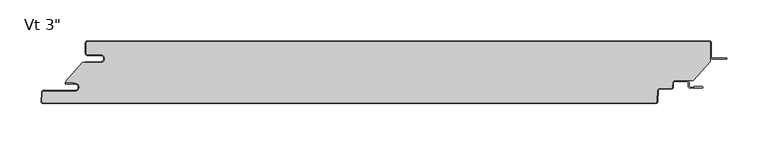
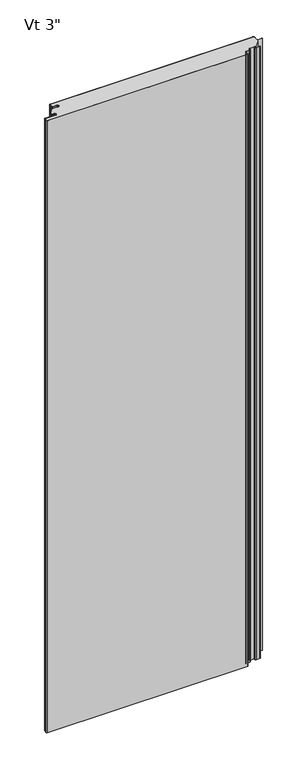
"""IFC4 building model written with IfcOpenShell, lengths in millimetres: plate geometry."""

from ifc_helpers import new_model, si_unit, point, frame, frame_2d, origin, origin_with_axes, place, context, project, spatial, polyline, circle_curve, ellipse_curve, trimmed, segment, composite_curve, outline, extrude, source, transform, mapped, element, save
from ifc_brep_helpers import plane_surface, cylinder_surface, revolved_surface, extruded_surface, advanced_brep


def plate_f979c6ee(model_context):
    return source(origin(), model_context, "Body", "SolidModel", [
        extrude(outline(composite_curve([segment(polyline([(-361.94375, -16.4625), (-377.81875, -16.4625)]), True, "CONTINUOUS"), segment(trimmed(circle_curve(frame_2d((-377.81875, -15.08125)), 1.38125), [point((-377.81875, -16.4625))], [point((-379.2, -15.08125))], False, "CARTESIAN"), True, "CONTINUOUS"), segment(polyline([(-379.2, -15.08125), (-379.2, -2.38125)]), True, "CONTINUOUS"), segment(trimmed(circle_curve(frame_2d((-377.81875, -2.38125)), 1.38125), [point((-379.2, -2.38125))], [point((-377.81875, -1.0))], False, "CARTESIAN"), True, "CONTINUOUS"), segment(polyline([(-377.81875, -1.0), (377.83125, -1.0)]), True, "CONTINUOUS"), segment(trimmed(circle_curve(frame_2d((377.83125, -2.38125)), 1.38125), [point((377.83125, -1.0))], [point((379.2125, -2.38125))], False, "CARTESIAN"), True, "CONTINUOUS"), segment(polyline([(379.2125, -2.38125), (379.2125, -24.9057308), (358.3955434, -48.2125), (335.9540783, -48.2125)]), True, "CONTINUOUS"), segment(trimmed(circle_curve(frame_2d((335.9540783, -50.8)), 2.5875), [point((335.9540783, -48.2125))], [point((333.3701244, -50.6645807))], True, "CARTESIAN"), True, "CONTINUOUS"), segment(polyline([(333.3701244, -50.6645807), (333.0680481, -56.428539)]), True, "CONTINUOUS"), segment(trimmed(circle_curve(frame_2d((331.6886911, -56.35625)), 1.38125), [point((333.0680481, -56.428539))], [point((331.6886911, -57.7375))], False, "CARTESIAN"), True, "CONTINUOUS"), segment(polyline([(331.6886911, -57.7375), (317.5323847, -57.7375)]), True, "CONTINUOUS"), segment(trimmed(circle_curve(frame_2d((317.5323847, -60.325)), 2.5875), [point((317.5323847, -57.7375))], [point((314.9484307, -60.1895807))], True, "CARTESIAN"), True, "CONTINUOUS"), segment(polyline([(314.9484307, -60.1895807), (314.2303677, -73.891039)]), True, "CONTINUOUS"), segment(trimmed(circle_curve(frame_2d((312.8510107, -73.81875)), 1.38125), [point((314.2303677, -73.891039))], [point((312.8510107, -75.2))], False, "CARTESIAN"), True, "CONTINUOUS"), segment(polyline([(312.8510107, -75.2), (-431.6799535, -75.2)]), True, "CONTINUOUS"), segment(trimmed(circle_curve(frame_2d((-431.6799535, -73.81875)), 1.38125), [point((-431.6799535, -75.2))], [point((-433.0593106, -73.746461))], False, "CARTESIAN"), True, "CONTINUOUS"), segment(polyline([(-433.0593106, -73.746461), (-432.4769291, -62.633961)]), True, "CONTINUOUS"), segment(trimmed(circle_curve(frame_2d((-431.0975721, -62.70625)), 1.38125), [point((-432.4769291, -62.633961))], [point((-431.0975721, -61.325))], False, "CARTESIAN"), True, "CONTINUOUS"), segment(polyline([(-431.0975721, -61.325), (-392.9142674, -61.325)]), True, "CONTINUOUS"), segment(trimmed(circle_curve(frame_2d((-392.9142674, -56.35625)), 4.96875), [point((-392.9142674, -61.325))], [point((-392.9142674, -51.3875))], True, "CARTESIAN"), True, "CONTINUOUS"), segment(polyline([(-392.9142674, -51.3875), (-394.5017674, -51.59375), (-394.5017674, -50.8), (-404.0125, -50.8), (-404.0125, -49.2157227), (-384.1260922, -26.4), (-361.94375, -26.4)]), True, "CONTINUOUS"), segment(trimmed(circle_curve(frame_2d((-361.94375, -21.43125)), 4.96875), [point((-361.94375, -26.4))], [point((-361.94375, -16.4625))], True, "CARTESIAN"), True, "CONTINUOUS")], self_intersect=False)), origin_with_axes(), (0.0, 0.0, 1.0), 2400.0),
        extrude(outline(composite_curve([segment(polyline([(-380.2, -25.4), (-361.94375, -25.4)]), True, "CONTINUOUS"), segment(trimmed(circle_curve(frame_2d((-361.94375, -21.43125)), 3.96875), [point((-361.94375, -25.4))], [point((-361.94375, -17.4625))], True, "CARTESIAN"), True, "CONTINUOUS"), segment(polyline([(-361.94375, -17.4625), (-377.81875, -17.4625)]), True, "CONTINUOUS"), segment(trimmed(circle_curve(frame_2d((-377.81875, -15.08125)), 2.38125), [point((-377.81875, -17.4625))], [point((-380.2, -15.08125))], False, "CARTESIAN"), True, "CONTINUOUS"), segment(polyline([(-380.2, -15.08125), (-380.2, -2.38125)]), True, "CONTINUOUS"), segment(trimmed(circle_curve(frame_2d((-377.81875, -2.38125)), 2.38125), [point((-380.2, -2.38125))], [point((-377.81875, 0.0))], False, "CARTESIAN"), True, "CONTINUOUS"), segment(polyline([(-377.81875, 0.0), (377.83125, 0.0)]), True, "CONTINUOUS"), segment(trimmed(circle_curve(frame_2d((377.83125, -2.38125)), 2.38125), [point((377.83125, 0.0))], [point((380.2125, -2.38125))], False, "CARTESIAN"), True, "CONTINUOUS"), segment(polyline([(380.2125, -2.38125), (380.2125, -19.446875)]), True, "CONTINUOUS"), segment(trimmed(circle_curve(frame_2d((381.8, -19.446875)), 1.5875), [point((380.2125, -19.446875))], [point((381.8, -21.034375))], True, "CARTESIAN"), True, "CONTINUOUS"), segment(polyline([(381.8, -21.034375), (399.2625, -21.034375), (399.2625, -22.034375), (381.8, -22.034375)]), True, "CONTINUOUS"), segment(trimmed(circle_curve(frame_2d((381.8, -19.446875)), 2.5875), [point((381.8, -22.034375))], [point((379.2125, -19.446875))], False, "CARTESIAN"), True, "CONTINUOUS"), segment(polyline([(379.2125, -19.446875), (379.2125, -2.38125)]), True, "CONTINUOUS"), segment(trimmed(circle_curve(frame_2d((377.83125, -2.38125)), 1.38125), [point((379.2125, -2.38125))], [point((377.83125, -1.0))], True, "CARTESIAN"), True, "CONTINUOUS"), segment(polyline([(377.83125, -1.0), (-377.81875, -1.0)]), True, "CONTINUOUS"), segment(trimmed(circle_curve(frame_2d((-377.81875, -2.38125)), 1.38125), [point((-377.81875, -1.0))], [point((-379.2, -2.38125))], True, "CARTESIAN"), True, "CONTINUOUS"), segment(polyline([(-379.2, -2.38125), (-379.2, -15.08125)]), True, "CONTINUOUS"), segment(trimmed(circle_curve(frame_2d((-377.81875, -15.08125)), 1.38125), [point((-379.2, -15.08125))], [point((-377.81875, -16.4625))], True, "CARTESIAN"), True, "CONTINUOUS"), segment(polyline([(-377.81875, -16.4625), (-361.94375, -16.4625)]), True, "CONTINUOUS"), segment(trimmed(circle_curve(frame_2d((-361.94375, -21.43125)), 4.96875), [point((-361.94375, -16.4625))], [point((-361.94375, -26.4))], False, "CARTESIAN"), True, "CONTINUOUS"), segment(polyline([(-361.94375, -26.4), (-380.2, -26.4), (-380.2, -25.4)]), True, "CONTINUOUS")], self_intersect=False)), origin_with_axes(), (0.0, 0.0, 1.0), 2400.0),
        advanced_brep(
        [(-404.2252049, -50.8, 2400.0), (-404.2252049, -52.3875, 2400.0), (-392.9142674, -52.3875, 2400.0), (-392.9142674, -60.325, 2400.0), (-431.0975721, -60.325, 2400.0), (-433.4755586, -62.581625, 2400.0), (-434.0579401, -73.694125, 2400.0), (-431.6799535, -76.2, 2400.0), (312.8510107, -76.2, 2400.0), (315.2289973, -73.943375, 2400.0), (315.9470603, -60.2419167, 2400.0), (317.5323847, -58.7375, 2400.0), (331.6886911, -58.7375, 2400.0), (334.0666776, -56.480875, 2400.0), (334.3687539, -50.7169167, 2400.0), (335.9540783, -49.2125, 2400.0), (350.8294826, -49.2125, 2400.0), (352.4169826, -50.8, 2400.0), (352.4169826, -54.9671875, 2400.0), (354.7982326, -57.3484375, 2400.0), (369.2898532, -57.3484375, 2400.0), (369.2898532, -55.5546875, 2400.0), (359.5607326, -55.5546875, 2400.0), (359.5607326, -56.3484375, 2400.0), (354.7982326, -56.3484375, 2400.0), (353.4169826, -54.9671875, 2400.0), (353.4169826, -50.8, 2400.0), (350.8294826, -48.2125, 2400.0), (335.9540783, -48.2125, 2400.0), (333.3701244, -50.6645807, 2400.0), (333.0680481, -56.428539, 2400.0), (331.6886911, -57.7375, 2400.0), (317.5323847, -57.7375, 2400.0), (314.9484307, -60.1895807, 2400.0), (314.2303677, -73.891039, 2400.0), (312.8510107, -75.2, 2400.0), (-431.6799535, -75.2, 2400.0), (-433.0593106, -73.746461, 2400.0), (-432.4769291, -62.633961, 2400.0), (-431.0975721, -61.325, 2400.0), (-392.9142674, -61.325, 2400.0), (-392.9142674, -51.3875, 2400.0), (-394.5017674, -51.59375, 2400.0), (-394.5017674, -50.8, 2400.0), (-404.2252049, -50.8, 0.0), (-394.5017674, -50.8, 0.0), (-394.5017674, -51.59375, 0.0), (-392.9142674, -51.3875, 0.0), (-392.9142674, -61.325, 0.0), (-431.0975721, -61.325, 0.0), (-432.4769291, -62.633961, 0.0), (-433.0593106, -73.746461, 0.0), (-431.6799535, -75.2, 0.0), (312.8510107, -75.2, 0.0), (314.2303677, -73.891039, 0.0), (314.9484307, -60.1895807, 0.0), (317.5323847, -57.7375, 0.0), (331.6886911, -57.7375, 0.0), (333.0680481, -56.428539, 0.0), (333.3701244, -50.6645807, 0.0), (335.9540783, -48.2125, 0.0), (350.8294826, -48.2125, 0.0), (353.4169826, -50.8, 0.0), (353.4169826, -54.9671875, 0.0), (354.7982326, -56.3484375, 0.0), (359.5607326, -56.3484375, 0.0), (359.5607326, -55.5546875, 0.0), (369.2898532, -55.5546875, 0.0), (369.2898532, -57.3484375, 0.0), (354.7982326, -57.3484375, 0.0), (352.4169826, -54.9671875, 0.0), (352.4169826, -50.8, 0.0), (350.8294826, -49.2125, 0.0), (335.9540783, -49.2125, 0.0), (334.3687539, -50.7169167, 0.0), (334.0666776, -56.480875, 0.0), (331.6886911, -58.7375, 0.0), (317.5323847, -58.7375, 0.0), (315.9470603, -60.2419167, 0.0), (315.2289973, -73.943375, 0.0), (312.8510107, -76.2, 0.0), (-431.6799535, -76.2, 0.0), (-434.0579401, -73.694125, 0.0), (-433.4755586, -62.581625, 0.0), (-431.0975721, -60.325, 0.0), (-392.9142674, -60.325, 0.0), (-392.9142674, -52.3875, 0.0), (-404.2252049, -52.3875, 0.0)],
        [
            (0, 1, circle_curve(frame((-404.2252049, -51.59375, 2400.0), z_axis=(0.0, 0.0, 1.0), x_axis=(1.0, 0.0, 0.0)), 0.79375)),
            (1, 2),
            (2, 3, circle_curve(frame((-392.9142674, -56.35625, 2400.0), z_axis=(0.0, 0.0, -1.0), x_axis=(1.0, 0.0, 0.0)), 3.96875)),
            (3, 4),
            (4, 5, circle_curve(frame((-431.0975721, -62.70625, 2400.0), z_axis=(0.0, 0.0, 1.0), x_axis=(1.0, 0.0, 0.0)), 2.38125)),
            (5, 6),
            (6, 7, circle_curve(frame((-431.6799535, -73.81875, 2400.0), z_axis=(0.0, 0.0, 1.0), x_axis=(1.0, 0.0, 0.0)), 2.38125)),
            (7, 8),
            (8, 9, circle_curve(frame((312.8510107, -73.81875, 2400.0), z_axis=(0.0, 0.0, 1.0), x_axis=(1.0, 0.0, 0.0)), 2.38125)),
            (9, 10),
            (10, 11, circle_curve(frame((317.5323847, -60.325, 2400.0), z_axis=(0.0, 0.0, -1.0), x_axis=(1.0, 0.0, 0.0)), 1.5875)),
            (11, 12),
            (12, 13, circle_curve(frame((331.6886911, -56.35625, 2400.0), z_axis=(0.0, 0.0, 1.0), x_axis=(1.0, 0.0, 0.0)), 2.38125)),
            (13, 14),
            (14, 15, circle_curve(frame((335.9540783, -50.8, 2400.0), z_axis=(0.0, 0.0, -1.0), x_axis=(1.0, 0.0, 0.0)), 1.5875)),
            (15, 16),
            (16, 17, circle_curve(frame((350.8294826, -50.8, 2400.0), z_axis=(0.0, 0.0, -1.0), x_axis=(1.0, 0.0, 0.0)), 1.5875)),
            (17, 18),
            (18, 19, circle_curve(frame((354.7982326, -54.9671875, 2400.0), z_axis=(0.0, 0.0, 1.0), x_axis=(1.0, 0.0, 0.0)), 2.38125)),
            (19, 20),
            (20, 21, ellipse_curve(frame((369.2898532, -56.4515625, 2400.0), z_axis=(0.0, 0.0, 1.0), x_axis=(0.0, 1.0, 0.0)), 0.896875, 0.7852275)),
            (21, 22),
            (22, 23),
            (23, 24),
            (24, 25, circle_curve(frame((354.7982326, -54.9671875, 2400.0), z_axis=(0.0, 0.0, -1.0), x_axis=(1.0, 0.0, 0.0)), 1.38125)),
            (25, 26),
            (26, 27, circle_curve(frame((350.8294826, -50.8, 2400.0), z_axis=(0.0, 0.0, 1.0), x_axis=(1.0, 0.0, 0.0)), 2.5875)),
            (27, 28),
            (28, 29, circle_curve(frame((335.9540783, -50.8, 2400.0), z_axis=(0.0, 0.0, 1.0), x_axis=(1.0, 0.0, 0.0)), 2.5875)),
            (29, 30),
            (30, 31, circle_curve(frame((331.6886911, -56.35625, 2400.0), z_axis=(0.0, 0.0, -1.0), x_axis=(1.0, 0.0, 0.0)), 1.38125)),
            (31, 32),
            (32, 33, circle_curve(frame((317.5323847, -60.325, 2400.0), z_axis=(0.0, 0.0, 1.0), x_axis=(1.0, 0.0, 0.0)), 2.5875)),
            (33, 34),
            (34, 35, circle_curve(frame((312.8510107, -73.81875, 2400.0), z_axis=(0.0, 0.0, -1.0), x_axis=(1.0, 0.0, 0.0)), 1.38125)),
            (35, 36),
            (36, 37, circle_curve(frame((-431.6799535, -73.81875, 2400.0), z_axis=(0.0, 0.0, -1.0), x_axis=(1.0, 0.0, 0.0)), 1.38125)),
            (37, 38),
            (38, 39, circle_curve(frame((-431.0975721, -62.70625, 2400.0), z_axis=(0.0, 0.0, -1.0), x_axis=(1.0, 0.0, 0.0)), 1.38125)),
            (39, 40),
            (40, 41, circle_curve(frame((-392.9142674, -56.35625, 2400.0), z_axis=(0.0, 0.0, 1.0), x_axis=(1.0, 0.0, 0.0)), 4.96875)),
            (41, 42),
            (42, 43),
            (43, 0),
            (44, 45),
            (45, 46),
            (46, 47),
            (47, 48, circle_curve(frame((-392.9142674, -56.35625, 0.0), z_axis=(0.0, 0.0, -1.0), x_axis=(1.0, 0.0, 0.0)), 4.96875)),
            (48, 49),
            (49, 50, circle_curve(frame((-431.0975721, -62.70625, 0.0), z_axis=(0.0, 0.0, 1.0), x_axis=(1.0, 0.0, 0.0)), 1.38125)),
            (50, 51),
            (51, 52, circle_curve(frame((-431.6799535, -73.81875, 0.0), z_axis=(0.0, 0.0, 1.0), x_axis=(1.0, 0.0, 0.0)), 1.38125)),
            (52, 53),
            (53, 54, circle_curve(frame((312.8510107, -73.81875, 0.0), z_axis=(0.0, 0.0, 1.0), x_axis=(1.0, 0.0, 0.0)), 1.38125)),
            (54, 55),
            (55, 56, circle_curve(frame((317.5323847, -60.325, 0.0), z_axis=(0.0, 0.0, -1.0), x_axis=(1.0, 0.0, 0.0)), 2.5875)),
            (56, 57),
            (57, 58, circle_curve(frame((331.6886911, -56.35625, 0.0), z_axis=(0.0, 0.0, 1.0), x_axis=(1.0, 0.0, 0.0)), 1.38125)),
            (58, 59),
            (59, 60, circle_curve(frame((335.9540783, -50.8, 0.0), z_axis=(0.0, 0.0, -1.0), x_axis=(1.0, 0.0, 0.0)), 2.5875)),
            (60, 61),
            (61, 62, circle_curve(frame((350.8294826, -50.8, 0.0), z_axis=(0.0, 0.0, -1.0), x_axis=(1.0, 0.0, 0.0)), 2.5875)),
            (62, 63),
            (63, 64, circle_curve(frame((354.7982326, -54.9671875, 0.0), z_axis=(0.0, 0.0, 1.0), x_axis=(1.0, 0.0, 0.0)), 1.38125)),
            (64, 65),
            (65, 66),
            (66, 67),
            (67, 68, ellipse_curve(frame((369.2898532, -56.4515625, 0.0), z_axis=(0.0, 0.0, -1.0), x_axis=(0.0, 1.0, 0.0)), 0.896875, 0.7852275)),
            (68, 69),
            (69, 70, circle_curve(frame((354.7982326, -54.9671875, 0.0), z_axis=(0.0, 0.0, -1.0), x_axis=(1.0, 0.0, 0.0)), 2.38125)),
            (70, 71),
            (71, 72, circle_curve(frame((350.8294826, -50.8, 0.0), z_axis=(0.0, 0.0, 1.0), x_axis=(1.0, 0.0, 0.0)), 1.5875)),
            (72, 73),
            (73, 74, circle_curve(frame((335.9540783, -50.8, 0.0), z_axis=(0.0, 0.0, 1.0), x_axis=(1.0, 0.0, 0.0)), 1.5875)),
            (74, 75),
            (75, 76, circle_curve(frame((331.6886911, -56.35625, 0.0), z_axis=(0.0, 0.0, -1.0), x_axis=(1.0, 0.0, 0.0)), 2.38125)),
            (76, 77),
            (77, 78, circle_curve(frame((317.5323847, -60.325, 0.0), z_axis=(0.0, 0.0, 1.0), x_axis=(1.0, 0.0, 0.0)), 1.5875)),
            (78, 79),
            (79, 80, circle_curve(frame((312.8510107, -73.81875, 0.0), z_axis=(0.0, 0.0, -1.0), x_axis=(1.0, 0.0, 0.0)), 2.38125)),
            (80, 81),
            (81, 82, circle_curve(frame((-431.6799535, -73.81875, 0.0), z_axis=(0.0, 0.0, -1.0), x_axis=(1.0, 0.0, 0.0)), 2.38125)),
            (82, 83),
            (83, 84, circle_curve(frame((-431.0975721, -62.70625, 0.0), z_axis=(0.0, 0.0, -1.0), x_axis=(1.0, 0.0, 0.0)), 2.38125)),
            (84, 85),
            (85, 86, circle_curve(frame((-392.9142674, -56.35625, 0.0), z_axis=(0.0, 0.0, 1.0), x_axis=(1.0, 0.0, 0.0)), 3.96875)),
            (86, 87),
            (87, 44, circle_curve(frame((-404.2252049, -51.59375, 0.0), z_axis=(0.0, 0.0, -1.0), x_axis=(1.0, 0.0, 0.0)), 0.79375)),
            (43, 45),
            (44, 0),
            (87, 1),
            (86, 2),
            (85, 3),
            (84, 4),
            (83, 5),
            (82, 6),
            (81, 7),
            (80, 8),
            (79, 9),
            (78, 10),
            (77, 11),
            (76, 12),
            (75, 13),
            (74, 14),
            (73, 15),
            (38, 50),
            (49, 39),
            (33, 55),
            (54, 34),
            (32, 56),
            (31, 57),
            (30, 58),
            (29, 59),
            (28, 60),
            (23, 65),
            (64, 24),
            (63, 25),
            (62, 26),
            (72, 16),
            (71, 17),
            (70, 18),
            (69, 19),
            (68, 20),
            (27, 61),
            (48, 40),
            (47, 41),
            (42, 46),
            (22, 66),
            (21, 67),
            (37, 51),
            (36, 52),
            (35, 53),
        ],
        [
            plane_surface(frame((0.00625, -76.2, 2400.0), z_axis=(0.0, 0.0, 1.0), x_axis=(0.0, -1.0, 0.0))),
            plane_surface(frame((0.00625, -76.2, 0.0), z_axis=(0.0, 0.0, -1.0), x_axis=(0.0, -1.0, 0.0))),
            plane_surface(frame((-404.2252049, -50.8, 2400.0), z_axis=(0.0, 1.0, 0.0), x_axis=(0.0, 0.0, -1.0))),
            cylinder_surface(frame((-404.2252049, -51.59375, 2400.0), z_axis=(0.0, 0.0, 1.0), x_axis=(1.0, 0.0, 0.0)), 0.79375),
            plane_surface(frame((-392.9142674, -52.3875, 2400.0), z_axis=(0.0, -1.0, 0.0), x_axis=(0.0, 0.0, -1.0))),
            revolved_surface(polyline([(-388.9455174, -56.35625, 0.0), (-388.9455174, -56.35625, 2400.0)]), (-392.9142674, -56.35625, 2400.0), (0.0, 0.0, -1.0)),
            plane_surface(frame((-431.0975721, -60.325, 2400.0), z_axis=(0.0, 1.0, 0.0), x_axis=(0.0, 0.0, -1.0))),
            cylinder_surface(frame((-431.0975721, -62.70625, 2400.0), z_axis=(0.0, 0.0, 1.0), x_axis=(1.0, 0.0, 0.0)), 2.38125),
            plane_surface(frame((-434.0579401, -73.694125, 2400.0), z_axis=(-0.9986295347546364, 0.05233595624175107, 0.0), x_axis=(0.0, 0.0, -1.0))),
            cylinder_surface(frame((-431.6799535, -73.81875, 2400.0), z_axis=(0.0, 0.0, 1.0), x_axis=(1.0, 0.0, 0.0)), 2.38125),
            plane_surface(frame((312.8510107, -76.2, 2400.0), z_axis=(0.0, -1.0, 0.0), x_axis=(0.0, 0.0, -1.0))),
            cylinder_surface(frame((312.8510107, -73.81875, 2400.0), z_axis=(0.0, 0.0, 1.0), x_axis=(1.0, 0.0, 0.0)), 2.38125),
            plane_surface(frame((315.9470603, -60.2419167, 2400.0), z_axis=(0.9986295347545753, -0.05233595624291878, 0.0), x_axis=(0.0, 0.0, -1.0))),
            revolved_surface(polyline([(319.1198847, -60.325, 0.0), (319.1198847, -60.325, 2400.0)]), (317.5323847, -60.325, 2400.0), (0.0, 0.0, -1.0)),
            plane_surface(frame((331.6886911, -58.7375, 2400.0), z_axis=(0.0, -1.0, 0.0), x_axis=(0.0, 0.0, -1.0))),
            cylinder_surface(frame((331.6886911, -56.35625, 2400.0), z_axis=(0.0, 0.0, 1.0), x_axis=(1.0, 0.0, 0.0)), 2.38125),
            plane_surface(frame((334.3687539, -50.7169167, 2400.0), z_axis=(0.9986295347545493, -0.052335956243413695, 0.0), x_axis=(0.0, 0.0, -1.0))),
            revolved_surface(polyline([(337.54157829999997, -50.8, 0.0), (337.54157829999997, -50.8, 2400.0)]), (335.9540783, -50.8, 2400.0), (0.0, 0.0, -1.0)),
            revolved_surface(polyline([(-429.71632209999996, -62.70625, 0.0), (-429.71632209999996, -62.70625, 2400.0)]), (-431.0975721, -62.70625, 2400.0), (0.0, 0.0, -1.0)),
            plane_surface(frame((314.2303677, -73.891039, 2400.0), z_axis=(-0.9986295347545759, 0.052335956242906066, 0.0), x_axis=(0.0, 0.0, -1.0))),
            cylinder_surface(frame((317.5323847, -60.325, 2400.0), z_axis=(0.0, 0.0, 1.0), x_axis=(1.0, 0.0, 0.0)), 2.5875),
            plane_surface(frame((317.5323847, -57.7375, 2400.0), z_axis=(0.0, 1.0, 0.0), x_axis=(0.0, 0.0, -1.0))),
            revolved_surface(polyline([(333.06994110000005, -56.35625, 0.0), (333.06994110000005, -56.35625, 2400.0)]), (331.6886911, -56.35625, 2400.0), (0.0, 0.0, -1.0)),
            plane_surface(frame((333.0680481, -56.428539, 2400.0), z_axis=(-0.998629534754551, 0.05233595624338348, 0.0), x_axis=(0.0, 0.0, -1.0))),
            cylinder_surface(frame((335.9540783, -50.8, 2400.0), z_axis=(0.0, 0.0, 1.0), x_axis=(1.0, 0.0, 0.0)), 2.5875),
            plane_surface(frame((354.7982326, -56.3484375, 2400.0), z_axis=(0.0, 1.0, 0.0), x_axis=(0.0, 0.0, -1.0))),
            revolved_surface(polyline([(356.17948260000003, -54.9671875, 0.0), (356.17948260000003, -54.9671875, 2400.0)]), (354.7982326, -54.9671875, 2400.0), (0.0, 0.0, -1.0)),
            plane_surface(frame((353.4169826, -50.8, 2400.0), z_axis=(1.0, 0.0, 0.0), x_axis=(0.0, 0.0, -1.0))),
            plane_surface(frame((350.8294826, -49.2125, 2400.0), z_axis=(0.0, -1.0, 0.0), x_axis=(0.0, 0.0, -1.0))),
            revolved_surface(polyline([(352.4169826, -50.8, 0.0), (352.4169826, -50.8, 2400.0)]), (350.8294826, -50.8, 2400.0), (0.0, 0.0, -1.0)),
            plane_surface(frame((352.4169826, -54.9671875, 2400.0), z_axis=(-1.0, 0.0, 0.0), x_axis=(0.0, 0.0, -1.0))),
            cylinder_surface(frame((354.7982326, -54.9671875, 2400.0), z_axis=(0.0, 0.0, 1.0), x_axis=(1.0, 0.0, 0.0)), 2.38125),
            plane_surface(frame((369.2898532, -57.3484375, 2400.0), z_axis=(0.0, -1.0, 0.0), x_axis=(0.0, 0.0, -1.0))),
            plane_surface(frame((335.9540783, -48.2125, 2400.0), z_axis=(0.0, 1.0, 0.0), x_axis=(0.0, 0.0, -1.0))),
            cylinder_surface(frame((350.8294826, -50.8, 2400.0), z_axis=(0.0, 0.0, 1.0), x_axis=(1.0, 0.0, 0.0)), 2.5875),
            plane_surface(frame((-392.9142674, -61.325, 2400.0), z_axis=(0.0, -1.0, 0.0), x_axis=(0.0, 0.0, -1.0))),
            cylinder_surface(frame((-392.9142674, -56.35625, 2400.0), z_axis=(0.0, 0.0, 1.0), x_axis=(1.0, 0.0, 0.0)), 4.96875),
            plane_surface(frame((-394.5017674, -50.8, 2400.0), z_axis=(1.0, 0.0, 0.0), x_axis=(0.0, 0.0, -1.0))),
            plane_surface(frame((-394.5017674, -51.59375, 2400.0), z_axis=(-0.12883844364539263, 0.9916655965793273, 0.0), x_axis=(0.0, 0.0, -1.0))),
            plane_surface(frame((359.5607326, -56.3484375, 2400.0), z_axis=(-1.0, 0.0, 0.0), x_axis=(0.0, 0.0, -1.0))),
            plane_surface(frame((359.5607326, -55.5546875, 2400.0), z_axis=(0.0, 1.0, 0.0), x_axis=(0.0, 0.0, -1.0))),
            extruded_surface(trimmed(ellipse_curve(frame((369.2898532, -56.4515625, 2400.0), z_axis=(0.0, 0.0, -1.0), x_axis=(0.0, 1.0, 0.0)), 0.896875, 0.7852275), [point((369.2898532, -55.5546875, 2400.0))], [point((369.2898532, -57.3484375, 2400.0))], True, "CARTESIAN"), (0.0, 0.0, -2400.0), 2400.0),
            plane_surface(frame((-432.4769291, -62.633961, 2400.0), z_axis=(0.9986295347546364, -0.05233595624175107, 0.0), x_axis=(0.0, 0.0, -1.0))),
            revolved_surface(polyline([(-430.2987035, -73.81875, 0.0), (-430.2987035, -73.81875, 2400.0)]), (-431.6799535, -73.81875, 2400.0), (0.0, 0.0, -1.0)),
            plane_surface(frame((-431.6799535, -75.2, 2400.0), z_axis=(0.0, 1.0, 0.0), x_axis=(0.0, 0.0, -1.0))),
            revolved_surface(polyline([(314.23226070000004, -73.81875, 0.0), (314.23226070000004, -73.81875, 2400.0)]), (312.8510107, -73.81875, 2400.0), (0.0, 0.0, -1.0)),
        ],
        [
            (0, [[1, 2, 3, 4, 5, 6, 7, 8, 9, 10, 11, 12, 13, 14, 15, 16, 17, 18, 19, 20, 21, 22, 23, 24, 25, 26, 27, 28, 29, 30, 31, 32, 33, 34, 35, 36, 37, 38, 39, 40, 41, 42, 43, 44]]),
            (1, [[45, 46, 47, 48, 49, 50, 51, 52, 53, 54, 55, 56, 57, 58, 59, 60, 61, 62, 63, 64, 65, 66, 67, 68, 69, 70, 71, 72, 73, 74, 75, 76, 77, 78, 79, 80, 81, 82, 83, 84, 85, 86, 87, 88]]),
            (2, [[89, -45, 90, -44]]),
            (3, [[-90, -88, 91, -1]]),
            (4, [[-91, -87, 92, -2]]),
            (5, [[-92, -86, 93, -3]]),
            (6, [[-93, -85, 94, -4]]),
            (7, [[-94, -84, 95, -5]]),
            (8, [[-95, -83, 96, -6]]),
            (9, [[-96, -82, 97, -7]]),
            (10, [[-97, -81, 98, -8]]),
            (11, [[-98, -80, 99, -9]]),
            (12, [[-99, -79, 100, -10]]),
            (13, [[-100, -78, 101, -11]]),
            (14, [[-101, -77, 102, -12]]),
            (15, [[-102, -76, 103, -13]]),
            (16, [[-103, -75, 104, -14]]),
            (17, [[-104, -74, 105, -15]]),
            (18, [[106, -50, 107, -39]]),
            (19, [[108, -55, 109, -34]]),
            (20, [[110, -56, -108, -33]]),
            (21, [[111, -57, -110, -32]]),
            (22, [[112, -58, -111, -31]]),
            (23, [[113, -59, -112, -30]]),
            (24, [[114, -60, -113, -29]]),
            (25, [[115, -65, 116, -24]]),
            (26, [[-116, -64, 117, -25]]),
            (27, [[-117, -63, 118, -26]]),
            (28, [[-105, -73, 119, -16]]),
            (29, [[-119, -72, 120, -17]]),
            (30, [[-120, -71, 121, -18]]),
            (31, [[-121, -70, 122, -19]]),
            (32, [[-122, -69, 123, -20]]),
            (33, [[124, -61, -114, -28]]),
            (34, [[-118, -62, -124, -27]]),
            (35, [[-107, -49, 125, -40]]),
            (36, [[-125, -48, 126, -41]]),
            (37, [[127, -46, -89, -43]]),
            (38, [[-126, -47, -127, -42]]),
            (39, [[128, -66, -115, -23]]),
            (40, [[129, -67, -128, -22]]),
            (41, [[-123, -68, -129, -21]]),
            (42, [[130, -51, -106, -38]]),
            (43, [[131, -52, -130, -37]]),
            (44, [[132, -53, -131, -36]]),
            (45, [[-109, -54, -132, -35]]),
        ],
    ),
    ])


if __name__ == "__main__":
    model = new_model("IFC4")
    model_context = context("Model", 3, world=origin())
    ifc_project = project(units=[si_unit("LENGTHUNIT", "METRE", prefix="MILLI")], contexts=[model_context])
    site = spatial("IfcSite", under=ifc_project)
    building = spatial("IfcBuilding", under=site)
    placement = place(None, origin())
    plate_shape = plate_f979c6ee(model_context)
    element("IfcPlate", 1, ObjectType="KIP-30-DWHR-R19-CP-Vt-F : Vt 3\"", at=placement, inside=building, context=model_context, shape_type="MappedRepresentation", body=[
        mapped(plate_shape, transform((0.0, 0.0, 0.0), x_axis=(1.0, 0.0, 0.0), y_axis=(0.0, 1.0, 0.0), z_axis=(0.0, 0.0, 1.0))),
    ])
    save(model, "model.ifc")
